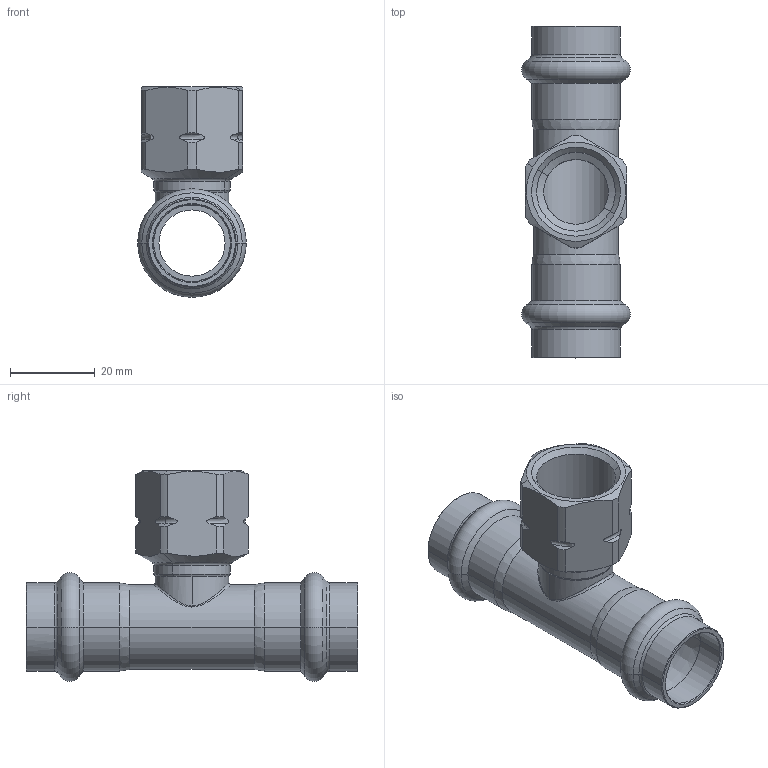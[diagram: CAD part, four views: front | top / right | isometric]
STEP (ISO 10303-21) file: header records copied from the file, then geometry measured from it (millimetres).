
FILE_DESCRIPTION(('CoCreate Modeling STEP Export'),'2;1');
FILE_NAME('8130GVW181218.stp','2013-01-31T15:22:16',(''),(''),'CoCreate Modeling STEP processor for AP214 (Solid Model)','CoCreate Modeling 17.00A 17-Jun-2010 (C) Parametric Technology GmbH','');
FILE_SCHEMA(('AUTOMOTIVE_DESIGN { 1 0 10303 214 1 1 1 1 }'));
Length unit declared in the file: millimetre
Products named in the file (1): 8130GVW181218
Bounding box: 25.7 x 78.51 x 49.85 mm (x, y, z)
Volume: 12762.5 mm3; surface area: 13972.2 mm2
Topology: 1 solids, 1 shells, 143 faces, 346 edges, 210 vertices
Faces by surface type: cylinder 46, cone 46, torus 34, plane 13, bspline 4
Entity records: 10269 total; most frequent: CARTESIAN_POINT 7509, ORIENTED_EDGE 692, DIRECTION 422, EDGE_CURVE 346, VERTEX_POINT 210, AXIS2_PLACEMENT_3D 171, EDGE_LOOP 152, FACE_OUTER_BOUND 143
